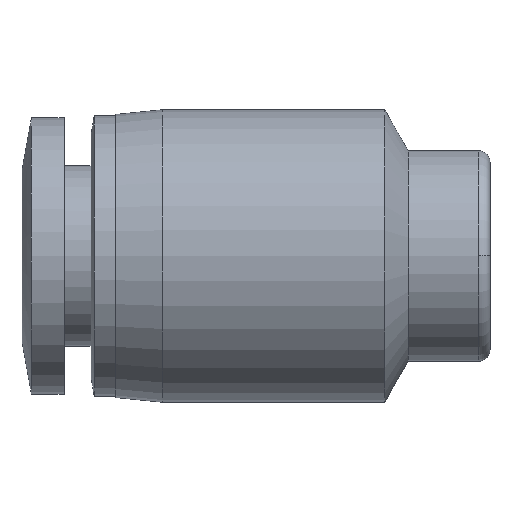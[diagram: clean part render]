
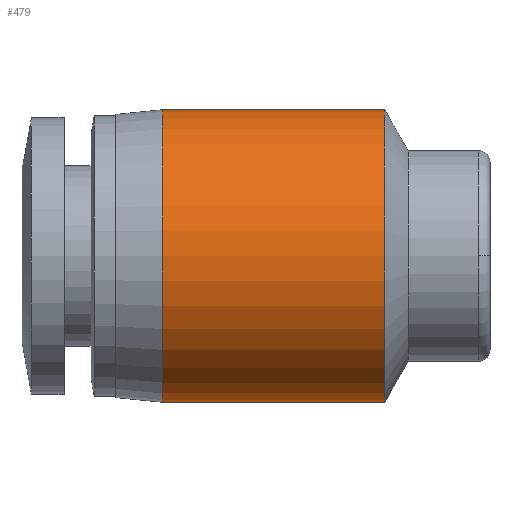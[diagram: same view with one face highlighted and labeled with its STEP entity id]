
A CAD part, top view. The second image highlights one B-rep face of the part: STEP entity #479.
In plain terms, the highlighted cylindrical face has radius 6.25 mm (diameter 12.5 mm), a partial arc.
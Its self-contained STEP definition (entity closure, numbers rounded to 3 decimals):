
#32 = CARTESIAN_POINT ( 'NONE',  ( -4.5, -6.25, 0. ) ) ;
#36 = LINE ( 'NONE', #246, #549 ) ;
#48 = DIRECTION ( 'NONE',  ( 1., 0., 0. ) ) ;
#76 = VERTEX_POINT ( 'NONE', #811 ) ;
#90 = CYLINDRICAL_SURFACE ( 'NONE', #413, 6.25 ) ;
#101 = CARTESIAN_POINT ( 'NONE',  ( -14., -6.25, 0. ) ) ;
#196 = AXIS2_PLACEMENT_3D ( 'NONE', #764, #846, #714 ) ;
#209 = CIRCLE ( 'NONE', #196, 6.25 ) ;
#214 = ORIENTED_EDGE ( 'NONE', *, *, #769, .T. ) ;
#233 = VERTEX_POINT ( 'NONE', #101 ) ;
#244 = DIRECTION ( 'NONE',  ( 0., 1., 0. ) ) ;
#246 = CARTESIAN_POINT ( 'NONE',  ( -9.25, 6.25, 0. ) ) ;
#257 = CARTESIAN_POINT ( 'NONE',  ( -9.25, -6.25, 0. ) ) ;
#271 = VERTEX_POINT ( 'NONE', #32 ) ;
#334 = ORIENTED_EDGE ( 'NONE', *, *, #562, .F. ) ;
#413 = AXIS2_PLACEMENT_3D ( 'NONE', #774, #849, #576 ) ;
#469 = VECTOR ( 'NONE', #652, 1000. ) ;
#479 = ADVANCED_FACE ( 'NONE', ( #503 ), #90, .T. ) ;
#503 = FACE_OUTER_BOUND ( 'NONE', #696, .T. ) ;
#515 = CARTESIAN_POINT ( 'NONE',  ( -14., 6.25, 0. ) ) ;
#533 = DIRECTION ( 'NONE',  ( 1., 0., 0. ) ) ;
#544 = ORIENTED_EDGE ( 'NONE', *, *, #601, .F. ) ;
#549 = VECTOR ( 'NONE', #533, 1000. ) ;
#562 = EDGE_CURVE ( 'NONE', #76, #271, #209, .T. ) ;
#576 = DIRECTION ( 'NONE',  ( 0., 1., 0. ) ) ;
#589 = CARTESIAN_POINT ( 'NONE',  ( -14., 0., 0. ) ) ;
#601 = EDGE_CURVE ( 'NONE', #667, #76, #36, .T. ) ;
#613 = EDGE_CURVE ( 'NONE', #233, #271, #805, .T. ) ;
#652 = DIRECTION ( 'NONE',  ( 1., 0., 0. ) ) ;
#667 = VERTEX_POINT ( 'NONE', #515 ) ;
#668 = CIRCLE ( 'NONE', #810, 6.25 ) ;
#696 = EDGE_LOOP ( 'NONE', ( #214, #839, #334, #544 ) ) ;
#714 = DIRECTION ( 'NONE',  ( 0., 1., 0. ) ) ;
#764 = CARTESIAN_POINT ( 'NONE',  ( -4.5, 0., 0. ) ) ;
#769 = EDGE_CURVE ( 'NONE', #667, #233, #668, .T. ) ;
#774 = CARTESIAN_POINT ( 'NONE',  ( -9.25, 0., 0. ) ) ;
#805 = LINE ( 'NONE', #257, #469 ) ;
#810 = AXIS2_PLACEMENT_3D ( 'NONE', #589, #48, #244 ) ;
#811 = CARTESIAN_POINT ( 'NONE',  ( -4.5, 6.25, 0. ) ) ;
#839 = ORIENTED_EDGE ( 'NONE', *, *, #613, .T. ) ;
#846 = DIRECTION ( 'NONE',  ( 1., 0., 0. ) ) ;
#849 = DIRECTION ( 'NONE',  ( 1., 0., 0. ) ) ;
